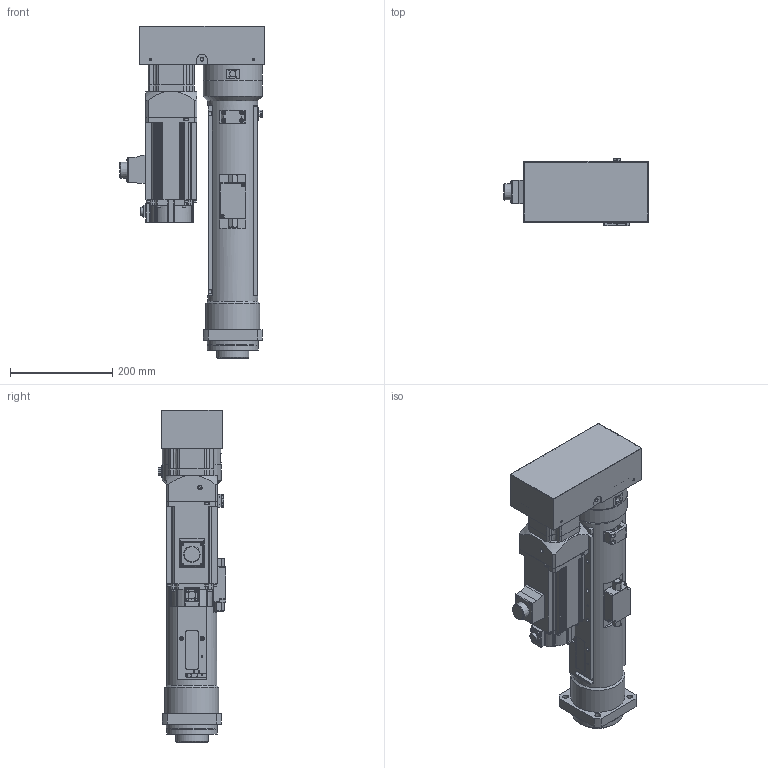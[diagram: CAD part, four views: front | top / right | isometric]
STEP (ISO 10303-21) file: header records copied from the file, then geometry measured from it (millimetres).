
FILE_DESCRIPTION( ('This file contains a STEP AP42 implementation' ,'as created by ZW3D STEP Interface translator.') ,'2;1' );
FILE_NAME( 'OACIS-DC-P015-300-265-A6V200_V20.01.stp' ,'25 715.152116', (''), ('ZWCAD Software Co.'), 'Version 1.0', 'ZW3D to STEP translator', '' );
FILE_SCHEMA(('AUTOMOTIVE_DESIGN { 1 0 10303 214 1 1 1 1 }'));
Length unit declared in the file: millimetre
Products named in the file (2): 0; OACIS-DC-P015-300-265-A6V200_V20.01
Bounding box: 283 x 131.5 x 648 mm (x, y, z)
Volume: 6748720.8 mm3; surface area: 1209761 mm2
Topology: 33 solids, 53 shells, 2524 faces, 6494 edges, 4262 vertices
Faces by surface type: cylinder 1047, plane 1002, cone 262, bspline 118, torus 79, sphere 16
Full cylindrical faces by diameter (mm): 1.6 x8, 2.459 x1, 2.75 x4, 3.242 x9, 3.3 x114, 4 x8, 4.134 x12, 4.2 x4, 4.3 x30, 4.5 x4, 5 x40, 5.5 x4, 6.5 x4, 6.8 x36, 7 x20, 8 x40, 8.4 x8, 8.5 x25, 9 x4, 11 x4, 12 x1, 14.8 x1, 15 x8, 15.5 x2, 16.5 x1, 18 x4, 18.917 x2, 19 x1, 20 x2, 22 x1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
Entity records: 83467 total; most frequent: CARTESIAN_POINT 18501, DIRECTION 13524, ORIENTED_EDGE 12650, EDGE_CURVE 6366, AXIS2_PLACEMENT_3D 5268, VERTEX_POINT 4188, EDGE_LOOP 3053, VECTOR 2988
